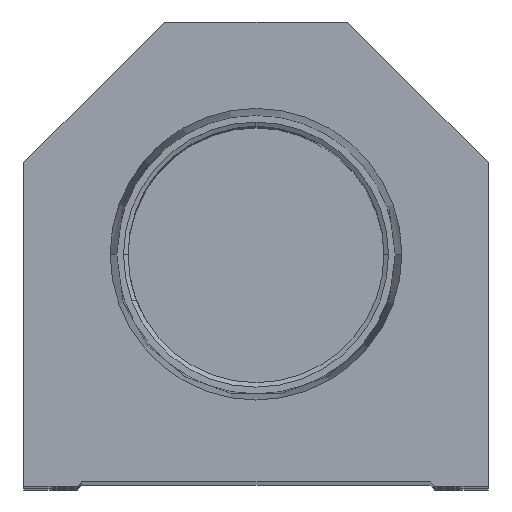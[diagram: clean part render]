
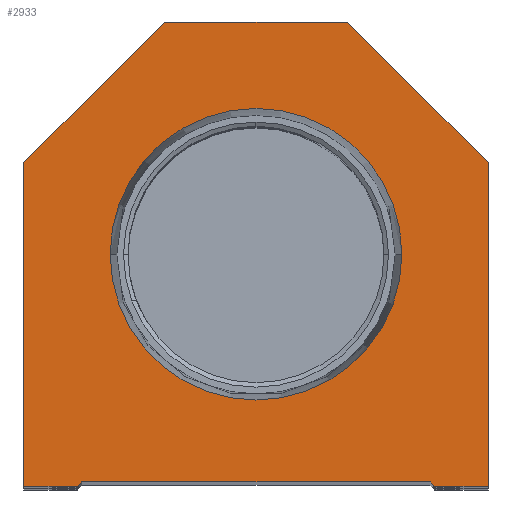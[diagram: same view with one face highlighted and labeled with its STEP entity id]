
A CAD part, top view. The second image highlights one B-rep face of the part: STEP entity #2933.
In plain terms, the highlighted planar face has unit normal (0, 0, 1).
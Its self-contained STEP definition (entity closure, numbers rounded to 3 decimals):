
#1 = CARTESIAN_POINT ( 'NONE',  ( 25.4, 0., 0. ) ) ;
#230 = DIRECTION ( 'NONE',  ( 0., 0., 1. ) ) ;
#688 = DIRECTION ( 'NONE',  ( 1., 0., 0. ) ) ;
#924 = EDGE_CURVE ( 'NONE', #8260, #15471, #10162, .T. ) ;
#1419 = CARTESIAN_POINT ( 'NONE',  ( -19.05, 0.5, 0. ) ) ;
#1758 = AXIS2_PLACEMENT_3D ( 'NONE', #2318, #12377, #14204 ) ;
#1869 = CARTESIAN_POINT ( 'NONE',  ( 25.4, 0., 0. ) ) ;
#1901 = VECTOR ( 'NONE', #10692, 1000. ) ;
#2088 = CARTESIAN_POINT ( 'NONE',  ( 0., 0., 0. ) ) ;
#2098 = DIRECTION ( 'NONE',  ( 1., 0., 0. ) ) ;
#2318 = CARTESIAN_POINT ( 'NONE',  ( 0., 25.4, 0. ) ) ;
#2933 = ADVANCED_FACE ( 'NONE', ( #8817, #15934 ), #3561, .T. ) ;
#3340 = VECTOR ( 'NONE', #17708, 1000. ) ;
#3486 = LINE ( 'NONE', #17817, #1901 ) ;
#3561 = PLANE ( 'NONE',  #10810 ) ;
#4015 = CARTESIAN_POINT ( 'NONE',  ( -19.55, 0., 0. ) ) ;
#4658 = LINE ( 'NONE', #20370, #6580 ) ;
#4916 = ORIENTED_EDGE ( 'NONE', *, *, #8737, .T. ) ;
#5871 = CARTESIAN_POINT ( 'NONE',  ( 25.4, 35.4, 0. ) ) ;
#6151 = VERTEX_POINT ( 'NONE', #1869 ) ;
#6473 = DIRECTION ( 'NONE',  ( 1., 0., 0. ) ) ;
#6580 = VECTOR ( 'NONE', #21976, 1000. ) ;
#6617 = CARTESIAN_POINT ( 'NONE',  ( -9.775, 9.775, 0. ) ) ;
#6962 = CARTESIAN_POINT ( 'NONE',  ( -10., 50.8, 0. ) ) ;
#7067 = ORIENTED_EDGE ( 'NONE', *, *, #11184, .T. ) ;
#7070 = VERTEX_POINT ( 'NONE', #21592 ) ;
#7374 = EDGE_CURVE ( 'NONE', #14348, #6151, #17788, .T. ) ;
#7978 = LINE ( 'NONE', #14957, #13172 ) ;
#8260 = VERTEX_POINT ( 'NONE', #8632 ) ;
#8323 = LINE ( 'NONE', #10273, #20593 ) ;
#8626 = LINE ( 'NONE', #15620, #9150 ) ;
#8632 = CARTESIAN_POINT ( 'NONE',  ( -15.947, 25.4, 0. ) ) ;
#8737 = EDGE_CURVE ( 'NONE', #7070, #14348, #8323, .T. ) ;
#8773 = ORIENTED_EDGE ( 'NONE', *, *, #924, .F. ) ;
#8817 = FACE_BOUND ( 'NONE', #19571, .T. ) ;
#8953 = DIRECTION ( 'NONE',  ( 0., 1., 0. ) ) ;
#9095 = ORIENTED_EDGE ( 'NONE', *, *, #21554, .T. ) ;
#9150 = VECTOR ( 'NONE', #17470, 1000. ) ;
#9207 = LINE ( 'NONE', #5871, #3340 ) ;
#9300 = DIRECTION ( 'NONE',  ( 0., 0., 1. ) ) ;
#9331 = ORIENTED_EDGE ( 'NONE', *, *, #19658, .T. ) ;
#9542 = ORIENTED_EDGE ( 'NONE', *, *, #17773, .T. ) ;
#9686 = ORIENTED_EDGE ( 'NONE', *, *, #21495, .T. ) ;
#10162 = CIRCLE ( 'NONE', #1758, 15.947 ) ;
#10273 = CARTESIAN_POINT ( 'NONE',  ( 9.775, 9.775, 0. ) ) ;
#10341 = VERTEX_POINT ( 'NONE', #6962 ) ;
#10545 = CARTESIAN_POINT ( 'NONE',  ( -25.4, 35.4, 0. ) ) ;
#10692 = DIRECTION ( 'NONE',  ( 0., -1., 0. ) ) ;
#10810 = AXIS2_PLACEMENT_3D ( 'NONE', #2088, #230, #18003 ) ;
#10889 = CARTESIAN_POINT ( 'NONE',  ( 19.05, 0., 0. ) ) ;
#11184 = EDGE_CURVE ( 'NONE', #10341, #19604, #22409, .T. ) ;
#11525 = EDGE_CURVE ( 'NONE', #15471, #8260, #22499, .T. ) ;
#12377 = DIRECTION ( 'NONE',  ( 0., 0., 1. ) ) ;
#13172 = VECTOR ( 'NONE', #6473, 1000. ) ;
#13235 = CARTESIAN_POINT ( 'NONE',  ( 25.4, 35.4, 0. ) ) ;
#13256 = VERTEX_POINT ( 'NONE', #20680 ) ;
#13308 = VECTOR ( 'NONE', #22628, 1000. ) ;
#13633 = DIRECTION ( 'NONE',  ( 0.707, 0.707, 0. ) ) ;
#14066 = LINE ( 'NONE', #6617, #19797 ) ;
#14204 = DIRECTION ( 'NONE',  ( 1., 0., 0. ) ) ;
#14348 = VERTEX_POINT ( 'NONE', #21877 ) ;
#14663 = EDGE_CURVE ( 'NONE', #15935, #22416, #9207, .T. ) ;
#14842 = ORIENTED_EDGE ( 'NONE', *, *, #11525, .F. ) ;
#14957 = CARTESIAN_POINT ( 'NONE',  ( -19.05, 0.5, 0. ) ) ;
#15471 = VERTEX_POINT ( 'NONE', #21930 ) ;
#15620 = CARTESIAN_POINT ( 'NONE',  ( 10., 50.8, 0. ) ) ;
#15934 = FACE_OUTER_BOUND ( 'NONE', #20711, .T. ) ;
#15935 = VERTEX_POINT ( 'NONE', #13235 ) ;
#16051 = CARTESIAN_POINT ( 'NONE',  ( 0., 25.4, 0. ) ) ;
#16377 = VERTEX_POINT ( 'NONE', #4015 ) ;
#16989 = AXIS2_PLACEMENT_3D ( 'NONE', #16051, #9300, #2098 ) ;
#17189 = VECTOR ( 'NONE', #8953, 1000. ) ;
#17282 = DIRECTION ( 'NONE',  ( 0.707, -0.707, 0. ) ) ;
#17466 = CARTESIAN_POINT ( 'NONE',  ( -25.4, 35.4, 0. ) ) ;
#17470 = DIRECTION ( 'NONE',  ( -1., 0., 0. ) ) ;
#17673 = LINE ( 'NONE', #1, #17189 ) ;
#17708 = DIRECTION ( 'NONE',  ( -0.707, 0.707, 0. ) ) ;
#17773 = EDGE_CURVE ( 'NONE', #16377, #21867, #14066, .T. ) ;
#17788 = LINE ( 'NONE', #10889, #22406 ) ;
#17817 = CARTESIAN_POINT ( 'NONE',  ( -25.4, 0., 0. ) ) ;
#18003 = DIRECTION ( 'NONE',  ( 1., 0., 0. ) ) ;
#18362 = ORIENTED_EDGE ( 'NONE', *, *, #7374, .T. ) ;
#18680 = EDGE_CURVE ( 'NONE', #19604, #13256, #3486, .T. ) ;
#19159 = ORIENTED_EDGE ( 'NONE', *, *, #18680, .T. ) ;
#19571 = EDGE_LOOP ( 'NONE', ( #14842, #8773 ) ) ;
#19604 = VERTEX_POINT ( 'NONE', #10545 ) ;
#19658 = EDGE_CURVE ( 'NONE', #6151, #15935, #17673, .T. ) ;
#19797 = VECTOR ( 'NONE', #13633, 1000. ) ;
#20202 = EDGE_CURVE ( 'NONE', #22416, #10341, #8626, .T. ) ;
#20370 = CARTESIAN_POINT ( 'NONE',  ( -19.05, 0., 0. ) ) ;
#20593 = VECTOR ( 'NONE', #17282, 1000. ) ;
#20680 = CARTESIAN_POINT ( 'NONE',  ( -25.4, 0., 0. ) ) ;
#20711 = EDGE_LOOP ( 'NONE', ( #9686, #9542, #9095, #4916, #18362, #9331, #22260, #20961, #7067, #19159 ) ) ;
#20768 = CARTESIAN_POINT ( 'NONE',  ( 10., 50.8, 0. ) ) ;
#20961 = ORIENTED_EDGE ( 'NONE', *, *, #20202, .T. ) ;
#21495 = EDGE_CURVE ( 'NONE', #13256, #16377, #4658, .T. ) ;
#21554 = EDGE_CURVE ( 'NONE', #21867, #7070, #7978, .T. ) ;
#21592 = CARTESIAN_POINT ( 'NONE',  ( 19.05, 0.5, 0. ) ) ;
#21867 = VERTEX_POINT ( 'NONE', #1419 ) ;
#21877 = CARTESIAN_POINT ( 'NONE',  ( 19.55, 0., 0. ) ) ;
#21930 = CARTESIAN_POINT ( 'NONE',  ( 15.947, 25.4, 0. ) ) ;
#21976 = DIRECTION ( 'NONE',  ( 1., 0., 0. ) ) ;
#22260 = ORIENTED_EDGE ( 'NONE', *, *, #14663, .T. ) ;
#22406 = VECTOR ( 'NONE', #688, 1000. ) ;
#22409 = LINE ( 'NONE', #17466, #13308 ) ;
#22416 = VERTEX_POINT ( 'NONE', #20768 ) ;
#22499 = CIRCLE ( 'NONE', #16989, 15.947 ) ;
#22628 = DIRECTION ( 'NONE',  ( -0.707, -0.707, 0. ) ) ;
